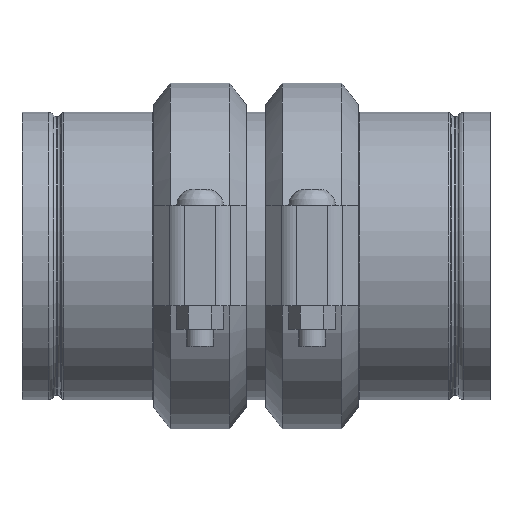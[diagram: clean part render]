
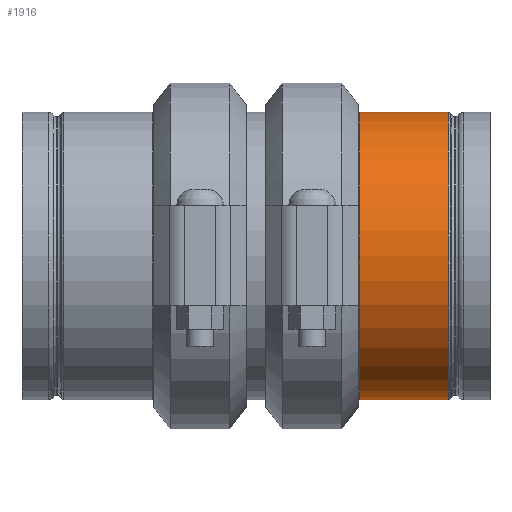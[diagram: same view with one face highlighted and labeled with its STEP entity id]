
A CAD part, top view. The second image highlights one B-rep face of the part: STEP entity #1916.
In plain terms, the highlighted cylindrical face has radius 84.138 mm (diameter 168.275 mm), a full revolution.
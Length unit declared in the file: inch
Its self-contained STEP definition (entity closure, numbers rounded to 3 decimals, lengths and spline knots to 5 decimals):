
#62=LINE('',#3151,#161);
#161=VECTOR('',#2522,3.3125);
#260=CYLINDRICAL_SURFACE('',#2169,3.3125);
#376=FACE_OUTER_BOUND('',#483,.T.);
#483=EDGE_LOOP('',(#1327,#1328,#1329,#1330,#1331,#1332,#1333,#1334));
#638=CIRCLE('',#2165,3.3125);
#639=CIRCLE('',#2166,3.3125);
#641=CIRCLE('',#2168,3.3125);
#642=CIRCLE('',#2170,3.3125);
#643=CIRCLE('',#2171,3.3125);
#644=CIRCLE('',#2172,3.3125);
#799=VERTEX_POINT('',#3138);
#800=VERTEX_POINT('',#3139);
#801=VERTEX_POINT('',#3141);
#802=VERTEX_POINT('',#3146);
#803=VERTEX_POINT('',#3147);
#804=VERTEX_POINT('',#3149);
#1006=EDGE_CURVE('',#799,#800,#638,.T.);
#1007=EDGE_CURVE('',#800,#801,#639,.T.);
#1009=EDGE_CURVE('',#801,#799,#641,.T.);
#1010=EDGE_CURVE('',#802,#803,#642,.T.);
#1011=EDGE_CURVE('',#804,#802,#643,.T.);
#1012=EDGE_CURVE('',#804,#800,#62,.T.);
#1013=EDGE_CURVE('',#803,#804,#644,.T.);
#1327=ORIENTED_EDGE('',*,*,#1010,.F.);
#1328=ORIENTED_EDGE('',*,*,#1011,.F.);
#1329=ORIENTED_EDGE('',*,*,#1012,.T.);
#1330=ORIENTED_EDGE('',*,*,#1006,.F.);
#1331=ORIENTED_EDGE('',*,*,#1009,.F.);
#1332=ORIENTED_EDGE('',*,*,#1007,.F.);
#1333=ORIENTED_EDGE('',*,*,#1012,.F.);
#1334=ORIENTED_EDGE('',*,*,#1013,.F.);
#1916=ADVANCED_FACE('',(#376),#260,.T.);
#2165=AXIS2_PLACEMENT_3D('',#3140,#2508,#2509);
#2166=AXIS2_PLACEMENT_3D('',#3142,#2510,#2511);
#2168=AXIS2_PLACEMENT_3D('',#3144,#2514,#2515);
#2169=AXIS2_PLACEMENT_3D('',#3145,#2516,#2517);
#2170=AXIS2_PLACEMENT_3D('',#3148,#2518,#2519);
#2171=AXIS2_PLACEMENT_3D('',#3150,#2520,#2521);
#2172=AXIS2_PLACEMENT_3D('',#3152,#2523,#2524);
#2508=DIRECTION('center_axis',(-1.,0.,0.));
#2509=DIRECTION('ref_axis',(0.,-1.,0.));
#2510=DIRECTION('center_axis',(-1.,0.,0.));
#2511=DIRECTION('ref_axis',(0.,-1.,0.));
#2514=DIRECTION('center_axis',(-1.,0.,0.));
#2515=DIRECTION('ref_axis',(0.,-1.,0.));
#2516=DIRECTION('center_axis',(1.,0.,0.));
#2517=DIRECTION('ref_axis',(0.,1.,0.));
#2518=DIRECTION('center_axis',(1.,0.,0.));
#2519=DIRECTION('ref_axis',(0.,-1.,0.));
#2520=DIRECTION('center_axis',(1.,0.,0.));
#2521=DIRECTION('ref_axis',(0.,-1.,0.));
#2522=DIRECTION('',(-1.,0.,0.));
#2523=DIRECTION('center_axis',(1.,0.,0.));
#2524=DIRECTION('ref_axis',(0.,-1.,0.));
#3138=CARTESIAN_POINT('',(0.999,3.3125,0.));
#3139=CARTESIAN_POINT('',(0.999,-3.3125,0.));
#3140=CARTESIAN_POINT('Origin',(0.999,0.,0.));
#3141=CARTESIAN_POINT('',(0.999,0.,3.3125));
#3142=CARTESIAN_POINT('Origin',(0.999,0.,0.));
#3144=CARTESIAN_POINT('Origin',(0.999,0.,0.));
#3145=CARTESIAN_POINT('Origin',(2.02001,0.,0.));
#3146=CARTESIAN_POINT('',(3.0398,3.3125,0.));
#3147=CARTESIAN_POINT('',(3.0398,0.,3.3125));
#3148=CARTESIAN_POINT('Origin',(3.0398,0.,0.));
#3149=CARTESIAN_POINT('',(3.0398,-3.3125,0.));
#3150=CARTESIAN_POINT('Origin',(3.0398,0.,0.));
#3151=CARTESIAN_POINT('',(2.02001,-3.3125,0.));
#3152=CARTESIAN_POINT('Origin',(3.0398,0.,0.));
